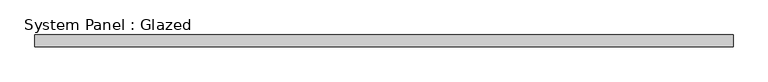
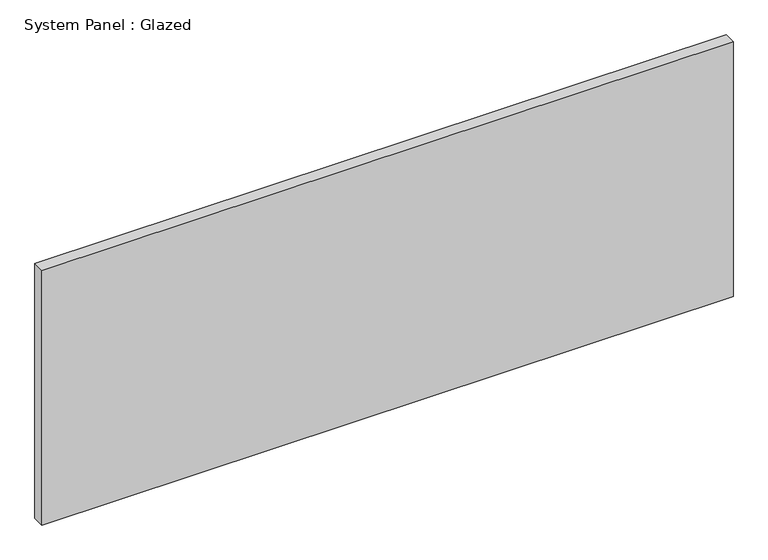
"""IFC4 building model written with IfcOpenShell, lengths in millimetres: plate geometry, System Panel : Glazed."""

import ifcopenshell
import ifcopenshell.guid

model = None  # the IFC model being written
_history = None  # IfcOwnerHistory: only IFC2X3 demands one
_inside = {}  # id of a spatial element -> (the spatial element, [elements in it])
_under = {}  # id of a project, library or spatial element -> (it, [spatial elements below it])
_declared = {}  # id of a project -> (the project, [libraries it declares])
_typed = {}  # id of a type object -> (the type object, [elements of that type])
_made_of = {}  # id of a material, layer set ... -> (it, [elements and type objects made of it])


def new_model(schema):
    """Start an empty IFC model of exactly this schema.

    Asked for "IFC4X3", IfcOpenShell would pick the latest addendum, in which some entities
    have other attributes; the version numbers below select the first issue.
    IFC2X3 requires an IfcOwnerHistory on every rooted entity: one is made here for all.
    """
    global model, _history
    if schema == "IFC4X3":
        model = ifcopenshell.file(schema_version=(4, 3, 0, 0))
    else:
        model = ifcopenshell.file(schema=schema)
    _inside.clear()
    _under.clear()
    _declared.clear()
    _typed.clear()
    _made_of.clear()
    _history = None
    if model.schema == "IFC2X3":
        org = make("IfcOrganization", Name="unknown")
        user = make(
            "IfcPersonAndOrganization",
            ThePerson=make("IfcPerson", FamilyName="unknown"),
            TheOrganization=org,
        )
        app = make(
            "IfcApplication",
            ApplicationDeveloper=org,
            Version="unknown",
            ApplicationFullName="unknown",
            ApplicationIdentifier="unknown",
        )
        _history = make(
            "IfcOwnerHistory",
            OwningUser=user,
            OwningApplication=app,
            ChangeAction="ADDED",
            CreationDate=0,
        )
    return model


def make(cls, **values):
    """One entity of the class cls with the attributes given. An attribute that is None is left unset."""
    return model.create_entity(
        cls, **{name: value for name, value in values.items() if value is not None}
    )


def rooted(cls, **values):
    """An entity with a GlobalId (a new one), such as an element, a storey or a relation."""
    return make(cls, GlobalId=ifcopenshell.guid.new(), OwnerHistory=_history, **values)


def si_unit(unit_type, name, prefix=None):
    """IfcSIUnit, for example si_unit("LENGTHUNIT", "METRE", prefix="MILLI")."""
    return make("IfcSIUnit", UnitType=unit_type, Prefix=prefix, Name=name)


def assignment(units):
    """IfcUnitAssignment: the units of a project."""
    return None if units is None else make("IfcUnitAssignment", Units=units)


def point(xyz):
    """IfcCartesianPoint."""
    return None if xyz is None else make("IfcCartesianPoint", Coordinates=xyz)


def direction(xyz):
    """IfcDirection."""
    return None if xyz is None else make("IfcDirection", DirectionRatios=xyz)


def frame(location, z_axis=None, x_axis=None):
    """IfcAxis2Placement3D, a coordinate frame: its origin and axes. An axis left out is left unset."""
    return make(
        "IfcAxis2Placement3D",
        Location=point(location),
        Axis=direction(z_axis),
        RefDirection=direction(x_axis),
    )


def origin():
    """The frame at (0, 0, 0) with its axes left unset."""
    return frame((0.0, 0.0, 0.0))


def origin_with_axes():
    """The frame at (0, 0, 0) with the z axis (0, 0, 1) and the x axis (1, 0, 0) written out."""
    return frame((0.0, 0.0, 0.0), z_axis=(0.0, 0.0, 1.0), x_axis=(1.0, 0.0, 0.0))


def place(relative_to, where):
    """IfcLocalPlacement: puts the frame where relative to a parent placement (None: the world)."""
    return make(
        "IfcLocalPlacement", PlacementRelTo=relative_to, RelativePlacement=where
    )


def context(
    kind, dimensions, precision=None, world=None, true_north=None, identifier=None
):
    """IfcGeometricRepresentationContext, for example the 3D "Model" context."""
    return make(
        "IfcGeometricRepresentationContext",
        ContextIdentifier=identifier,
        ContextType=kind,
        CoordinateSpaceDimension=dimensions,
        Precision=precision,
        WorldCoordinateSystem=world,
        TrueNorth=true_north,
    )


def project(units=None, contexts=None):
    """IfcProject with its units and contexts."""
    return rooted(
        "IfcProject",
        Name="project",
        RepresentationContexts=contexts,
        UnitsInContext=assignment(units),
    )


def spatial(cls, under=None, at=None, **own):
    """A site, building, storey or space (cls), placed at a placement, below another one or the project."""
    s = rooted(cls, ObjectPlacement=at, **own)
    if under is not None:
        _under.setdefault(under.id(), (under, []))[1].append(s)
    return s


def polyline(points):
    """IfcPolyline through the points."""
    return make("IfcPolyline", Points=[point(p) for p in points])


def outline(outer, holes=None, kind="AREA"):
    """IfcArbitraryClosedProfileDef: a profile drawn as a closed curve; with holes, ...WithVoids."""
    if holes is None:
        return make("IfcArbitraryClosedProfileDef", ProfileType=kind, OuterCurve=outer)
    return make(
        "IfcArbitraryProfileDefWithVoids",
        ProfileType=kind,
        OuterCurve=outer,
        InnerCurves=holes,
    )


def extrude(swept, where, along, depth):
    """IfcExtrudedAreaSolid: the profile swept, set in the frame where, extruded along a direction by depth."""
    return make(
        "IfcExtrudedAreaSolid",
        SweptArea=swept,
        Position=where,
        ExtrudedDirection=direction(along),
        Depth=depth,
    )


def shape(context_of_items, identifier, shape_type, items):
    """IfcShapeRepresentation: the items that make up one representation, for example the "Body"."""
    return make(
        "IfcShapeRepresentation",
        ContextOfItems=context_of_items,
        RepresentationIdentifier=identifier,
        RepresentationType=shape_type,
        Items=items,
    )


def source(mapping_origin, context_of_items, identifier, shape_type, items):
    """IfcRepresentationMap: a shape defined once, which mapped items show again and again."""
    return make(
        "IfcRepresentationMap",
        MappingOrigin=mapping_origin,
        MappedRepresentation=shape(context_of_items, identifier, shape_type, items),
    )


def transform(
    local_origin,
    x_axis=None,
    y_axis=None,
    z_axis=None,
    scale=None,
    scale2=None,
    scale3=None,
    uniform=True,
):
    """IfcCartesianTransformationOperator3D, or its non-uniform kind. x_axis, y_axis, z_axis: its Axis1, 2, 3."""
    if uniform:
        return make(
            "IfcCartesianTransformationOperator3D",
            Axis1=direction(x_axis),
            Axis2=direction(y_axis),
            LocalOrigin=point(local_origin),
            Scale=scale,
            Axis3=direction(z_axis),
        )
    return make(
        "IfcCartesianTransformationOperator3DnonUniform",
        Axis1=direction(x_axis),
        Axis2=direction(y_axis),
        LocalOrigin=point(local_origin),
        Scale=scale,
        Axis3=direction(z_axis),
        Scale2=scale2,
        Scale3=scale3,
    )


def mapped(mapping_source, mapping_target):
    """IfcMappedItem: shows the shape of a source again, moved by a transform."""
    return make(
        "IfcMappedItem", MappingSource=mapping_source, MappingTarget=mapping_target
    )


def made_of(thing, what):
    """Note that an element or type object is made of a material, layer set ...; save() writes the relation."""
    if what is not None:
        _made_of.setdefault(what.id(), (what, []))[1].append(thing)
    return thing


def element(
    cls,
    number,
    at=None,
    inside=None,
    cuts=None,
    type_object=None,
    material=None,
    context=None,
    identifier="Body",
    shape_type=None,
    held_by="IfcProductDefinitionShape",
    body=None,
    shapes=None,
    **own,
):
    """One element of the class cls, such as IfcWall. Its Tag is "e" and its number.

    at: its placement. inside: the storey or other place that contains it. cuts: it is an
    opening in that element (IfcRelVoidsElement). A single representation is given by context,
    identifier, shape_type and body (its items); several are given by shapes. held_by: the class
    of the entity that holds the representations. save() writes the other relations.
    """
    e = rooted(cls, Tag="e%d" % number, ObjectPlacement=at, **own)
    if body is not None:
        shapes = [shape(context, identifier, shape_type, body)]
    if shapes is not None:
        e.Representation = make(held_by, Representations=shapes)
    if inside is not None:
        _inside.setdefault(inside.id(), (inside, []))[1].append(e)
    if cuts is not None:
        rooted(
            "IfcRelVoidsElement", RelatingBuildingElement=cuts, RelatedOpeningElement=e
        )
    if type_object is not None:
        _typed.setdefault(type_object.id(), (type_object, []))[1].append(e)
    return made_of(e, material)


def aggregate(whole, parts):
    """IfcRelAggregates: a whole, such as a stair, and the parts it consists of."""
    return rooted("IfcRelAggregates", RelatingObject=whole, RelatedObjects=parts)


def save(model, path):
    """Write the relations noted so far, then the file.

    IfcRelAggregates (storeys below a building ...), IfcRelContainedInSpatialStructure (elements
    in a storey), IfcRelDefinesByType, IfcRelAssociatesMaterial and IfcRelDeclares: one each for
    every whole, place, type object, material and project.
    """
    for whole, parts in _under.values():
        aggregate(whole, parts)
    for where, things in _inside.values():
        rooted(
            "IfcRelContainedInSpatialStructure",
            RelatedElements=things,
            RelatingStructure=where,
        )
    for kind, things in _typed.values():
        rooted("IfcRelDefinesByType", RelatedObjects=things, RelatingType=kind)
    for what, things in _made_of.values():
        rooted("IfcRelAssociatesMaterial", RelatedObjects=things, RelatingMaterial=what)
    for by, libraries in _declared.values():
        rooted("IfcRelDeclares", RelatingContext=by, RelatedDefinitions=libraries)
    model.write(path)


def system_panel_glazed_6e806f8e(model_context):
    return source(origin(), model_context, "Body", "SweptSolid", [
        extrude(outline(polyline([(749.3, 19.05), (-749.3, 19.05), (-749.3, 44.45), (749.3, 44.45), (749.3, 19.05)])), origin_with_axes(), (0.0, 0.0, 1.0), 584.2),
    ])


if __name__ == "__main__":
    model = new_model("IFC4")
    model_context = context("Model", 3, world=origin())
    ifc_project = project(units=[si_unit("LENGTHUNIT", "METRE", prefix="MILLI")], contexts=[model_context])
    site = spatial("IfcSite", under=ifc_project)
    building = spatial("IfcBuilding", under=site)
    placement = place(None, origin())
    system_panel_glazed_shape = system_panel_glazed_6e806f8e(model_context)
    element("IfcPlate", 1, ObjectType="System Panel : Glazed", at=placement, inside=building, context=model_context, shape_type="MappedRepresentation", body=[
        mapped(system_panel_glazed_shape, transform((0.0, 0.0, 0.0), x_axis=(1.0, 0.0, 0.0), y_axis=(0.0, 1.0, 0.0), z_axis=(0.0, 0.0, 1.0))),
    ])
    save(model, "model.ifc")
